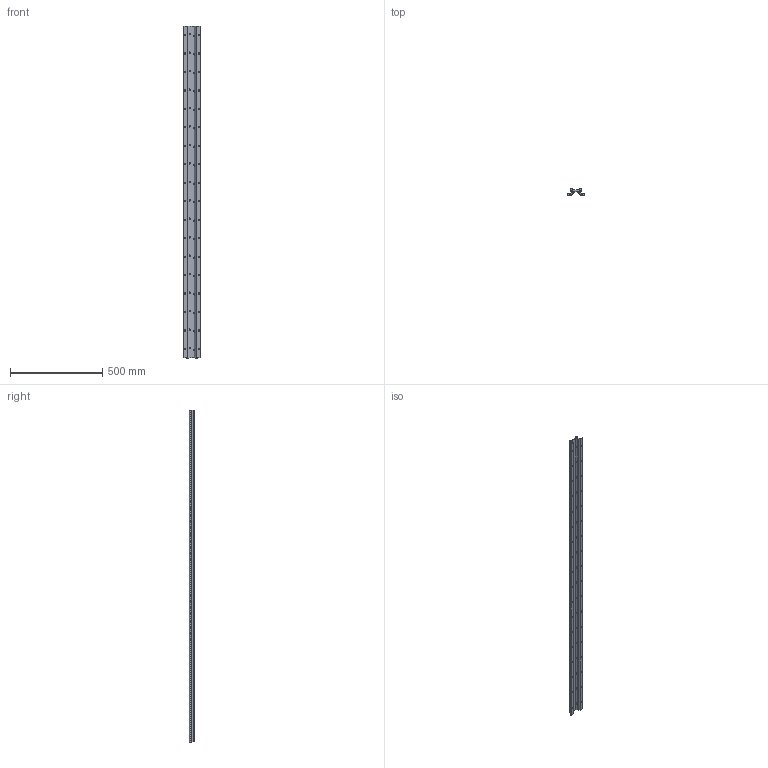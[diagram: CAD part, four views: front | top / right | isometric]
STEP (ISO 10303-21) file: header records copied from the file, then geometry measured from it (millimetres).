
FILE_DESCRIPTION (( 'STEP AP203' ), '1' );
FILE_NAME ('LF 3_-_LF 2 1798 mm lang.step', '2005-06-03T06:32:14', ( ' ' ), ( ' ' ), 'SwSTEP 2.0', 'SolidWorks 2004231', '' );
FILE_SCHEMA (( 'CONFIG_CONTROL_DESIGN' ));
Length unit declared in the file: millimetre
Products named in the file (1): LF 3_-_LF 2  1798 mm lang
Bounding box: 90 x 31 x 1798 mm (x, y, z)
Volume: 1882598.7 mm3; surface area: 580162.7 mm2
Topology: 1 solids, 1 shells, 828 faces, 2086 edges, 1256 vertices
Faces by surface type: cylinder 382, plane 302, cone 72, torus 72
Entity records: 25063 total; most frequent: CARTESIAN_POINT 6439, ORIENTED_EDGE 4028, DIRECTION 3580, EDGE_CURVE 2014, AXIS2_PLACEMENT_3D 1277, VERTEX_POINT 1256, VECTOR 1026, LINE 1026
